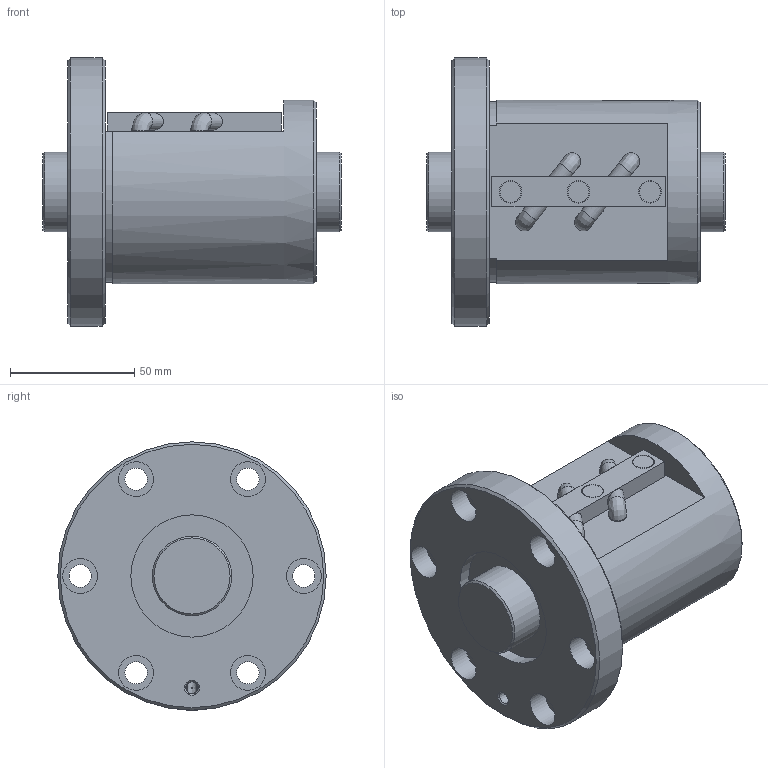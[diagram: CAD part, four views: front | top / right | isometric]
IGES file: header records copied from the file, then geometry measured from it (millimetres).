
Start section: Data from Parasolid IGES Translator 26.0.171, Copyright(c) 2006 Siemens PLM Software. All Rights Reserved.
Global section: file name: BIF3210V-5RRG0+120LC0_000.igs; native system: By Siemens PLM Incorporated; preprocessor: XPlus GENERIC/IGES 26.0.171; author: Noname; organization: Noname; date: 20240715.082313; units: millimetre
Bounding box: 120 x 108 x 108 mm (x, y, z)
Surface area: 71393 mm2 (no closed solid volume)
Topology: 0 solids, 0 shells, 99 faces, 463 edges, 418 vertices
Faces by surface type: revolution 58, extrusion 41
